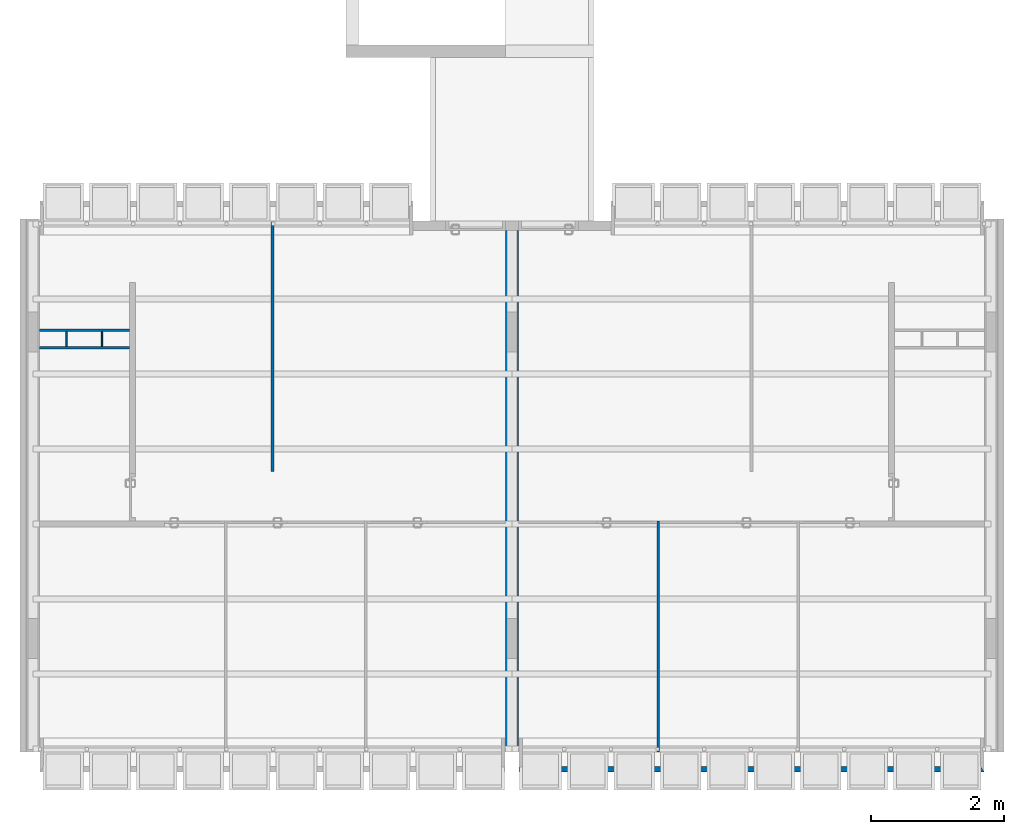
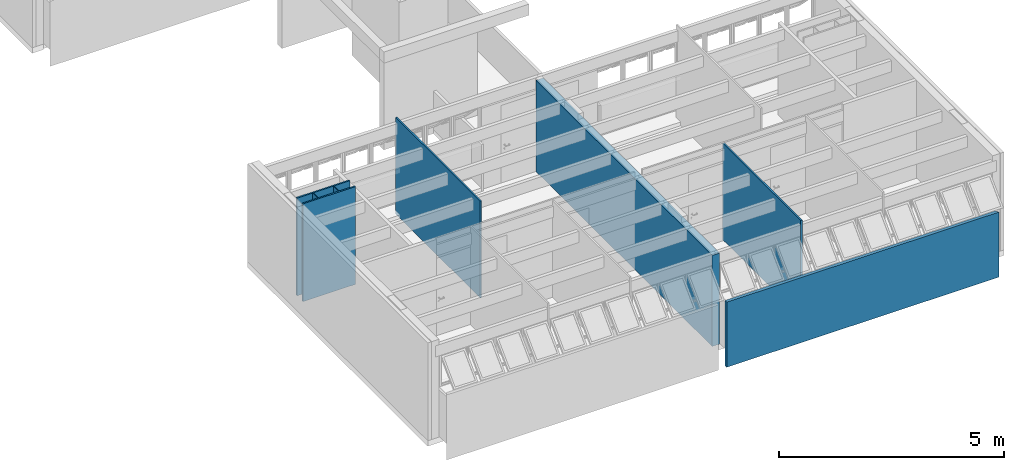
# One storey, part 8 of 37: 8 walls.
"""IFC2X3 building model written with IfcOpenShell, lengths in millimetres."""

from ifc_helpers import new_model, entity, si_unit, converted_unit, derived_unit, money_unit, direction, frame, origin_with_axes, place, context, subcontext, project, spatial, polyline, outline, extrude, material, layer, layer_set, layer_usage, type_object, element, save


model = new_model("IFC2X3")

# Units and contexts
model_context = context("Model", 3, precision=0.01, world=origin_with_axes(), true_north=direction((0.0, 1.0)))
body_context = subcontext(model_context, "Body", "Model", "MODEL_VIEW")
ifc_project = project(units=[si_unit("LENGTHUNIT", "METRE", prefix="MILLI"), si_unit("AREAUNIT", "SQUARE_METRE"), si_unit("VOLUMEUNIT", "CUBIC_METRE"), converted_unit("PLANEANGLEUNIT", "DEGREE", entity("IfcPlaneAngleMeasure", 0.0174532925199), si_unit("PLANEANGLEUNIT", "RADIAN"), dimensions=[0, 0, 0, 0, 0, 0, 0]), money_unit("USD"), converted_unit("TIMEUNIT", "Year", entity("IfcTimeMeasure", 31556926.0), si_unit("TIMEUNIT", "SECOND"), dimensions=[0, 0, 1, 0, 0, 0, 0]), si_unit("MASSUNIT", "GRAM", prefix="KILO"), si_unit("THERMODYNAMICTEMPERATUREUNIT", "DEGREE_CELSIUS"), si_unit("LUMINOUSINTENSITYUNIT", "LUMEN"), si_unit("ENERGYUNIT", "JOULE", prefix="MEGA"), derived_unit("THERMALCONDUCTANCEUNIT", [(si_unit("POWERUNIT", "WATT"), 1), (si_unit("LENGTHUNIT", "METRE"), -1), (si_unit("THERMODYNAMICTEMPERATUREUNIT", "KELVIN"), -1)]), derived_unit("SPECIFICHEATCAPACITYUNIT", [(si_unit("ENERGYUNIT", "JOULE"), 1), (si_unit("MASSUNIT", "GRAM", prefix="KILO"), -1), (si_unit("THERMODYNAMICTEMPERATUREUNIT", "KELVIN"), -1)]), derived_unit("MASSDENSITYUNIT", [(si_unit("MASSUNIT", "GRAM", prefix="KILO"), 1), (si_unit("VOLUMEUNIT", "CUBIC_METRE"), -1)])], contexts=[model_context])

# Site, building, storey
site_placement = place(None, origin_with_axes())
site = spatial("IfcSite", under=ifc_project, at=site_placement, Name="Local", CompositionType="ELEMENT")
building_placement = place(site_placement, origin_with_axes())
building = spatial("IfcBuilding", under=site, at=building_placement, Name="Construção", CompositionType="ELEMENT")
storey_placement = place(building_placement, frame((0.0, 0.0, 5300.0), z_axis=(0.0, 0.0, 1.0), x_axis=(1.0, 0.0, 0.0)))
storey = spatial("IfcBuildingStorey", under=building, at=storey_placement, Name="Terceiro Pavimento", CompositionType="ELEMENT", Elevation=5300.0)

# Walls
ifc_material_1 = material(Name="GENÉRICO - VEDAÇÃO EXTERNA")
ifc_layer_1 = layer(ifc_material_1, 190.0, ventilated="UNKNOWN")
ifc_layer_set_1 = layer_set([ifc_layer_1], Name="GENÉRICO - VEDAÇÃO EXTERNA 190")
ifc_layer_usage_1 = layer_usage(ifc_layer_set_1, "AXIS2", "NEGATIVE", 0.0)
wall_type_1 = type_object("IfcWallType", Name="GENÉRICO - VEDAÇÃO EXTERNA 190", PredefinedType="NOTDEFINED")
wall_1_placement = place(storey_placement, frame((7480.0, 8125.0, 0.0), z_axis=(0.0, 0.0, 1.0), x_axis=(0.0, -1.0, 0.0)))
element("IfcWallStandardCase", 1, at=wall_1_placement, inside=storey, type_object=wall_type_1, material=ifc_layer_usage_1, Name="CIRC3-PAREDE-026", context=body_context, shape_type="SweptSolid", body=[
    extrude(outline(polyline([(0.0, -190.0), (7825.0, -190.0), (7825.0, 0.0), (0.0, 0.0), (0.0, -190.0)])), origin_with_axes(), (0.0, 0.0, 1.0), 2470.0),
])
ifc_layer_2 = layer(ifc_material_1, 40.0, ventilated="UNKNOWN")
ifc_layer_set_2 = layer_set([ifc_layer_2], Name="GENÉRICO - VEDAÇÃO EXTERNA 40")
ifc_layer_usage_2 = layer_usage(ifc_layer_set_2, "AXIS2", "NEGATIVE", 40.0)
wall_type_2 = type_object("IfcWallType", Name="GENÉRICO - VEDAÇÃO EXTERNA 40", PredefinedType="NOTDEFINED")
wall_2_placement = place(storey_placement, frame((3810.0, 4505.0, 0.0), z_axis=(0.0, 0.0, 1.0), x_axis=(0.0, 1.0, 0.0)))
element("IfcWallStandardCase", 2, at=wall_2_placement, inside=storey, type_object=wall_type_2, material=ifc_layer_usage_2, Name="APTO9-PAREDE-003", context=body_context, shape_type="SweptSolid", body=[
    extrude(outline(polyline([(0.0, 0.0), (3750.0, 0.0), (3750.0, 40.0), (0.0, 40.0), (0.0, 0.0)])), origin_with_axes(), (0.0, 0.0, 1.0), 2620.0),
])
ifc_layer_usage_3 = layer_usage(ifc_layer_set_2, "AXIS2", "NEGATIVE", 40.0)
wall_3_placement = place(storey_placement, frame((290.0, 6345.0, 0.0), z_axis=(0.0, 0.0, 1.0), x_axis=(1.0, 0.0, 0.0)))
element("IfcWallStandardCase", 3, at=wall_3_placement, inside=storey, type_object=wall_type_2, material=ifc_layer_usage_3, Name="APTO9-PAREDE-011", context=body_context, shape_type="SweptSolid", body=[
    extrude(outline(polyline([(0.0, 0.0), (1350.0, 0.0), (1350.0, 40.0), (0.0, 40.0), (0.0, 0.0)])), origin_with_axes(), (0.0, 0.0, 1.0), 2650.0),
])
ifc_layer_usage_4 = layer_usage(ifc_layer_set_2, "AXIS2", "NEGATIVE", 40.0)
wall_4_placement = place(storey_placement, frame((1730.0, 6645.0, 0.0), z_axis=(0.0, 0.0, 1.0), x_axis=(-1.0, 0.0, 0.0)))
element("IfcWallStandardCase", 4, at=wall_4_placement, inside=storey, type_object=wall_type_2, material=ifc_layer_usage_4, Name="APTO9-PAREDE-010", context=body_context, shape_type="SweptSolid", body=[
    extrude(outline(polyline([(90.0, 0.0), (1440.0, 0.0), (1440.0, 40.0), (90.0, 40.0), (90.0, 0.0)])), origin_with_axes(), (0.0, 0.0, 1.0), 2650.0),
])
ifc_layer_usage_5 = layer_usage(ifc_layer_set_2, "AXIS2", "POSITIVE", 0.0)
wall_5_placement = place(storey_placement, frame((9560.0, 3765.0, 0.0), z_axis=(0.0, 0.0, 1.0), x_axis=(0.0, -1.0, 0.0)))
element("IfcWallStandardCase", 5, at=wall_5_placement, inside=storey, type_object=wall_type_2, material=ifc_layer_usage_5, Name="APTO10-PAREDE-005", context=body_context, shape_type="SweptSolid", body=[
    extrude(outline(polyline([(0.0, 0.0), (3465.0, 0.0), (3465.0, 40.0), (0.0, 40.0), (0.0, 0.0)])), origin_with_axes(), (0.0, 0.0, 1.0), 2620.0),
])
ifc_layer_3 = layer(ifc_material_1, 20.0, ventilated="UNKNOWN")
ifc_layer_set_3 = layer_set([ifc_layer_3], Name="GENÉRICO - VEDAÇÃO EXTERNA 20")
ifc_layer_usage_6 = layer_usage(ifc_layer_set_3, "AXIS2", "NEGATIVE", 20.0)
wall_type_3 = type_object("IfcWallType", Name="GENÉRICO - VEDAÇÃO EXTERNA 20", PredefinedType="NOTDEFINED")
wall_6_placement = place(storey_placement, frame((710.0, 6345.0, 0.0), z_axis=(0.0, 0.0, 1.0), x_axis=(0.0, 1.0, 0.0)))
element("IfcWallStandardCase", 6, at=wall_6_placement, inside=storey, type_object=wall_type_3, material=ifc_layer_usage_6, Name="APTO9-PAREDE-009", context=body_context, shape_type="SweptSolid", body=[
    extrude(outline(polyline([(40.0, 0.0), (260.0, 0.0), (260.0, 20.0), (40.0, 20.0), (40.0, 0.0)])), origin_with_axes(), (0.0, 0.0, 1.0), 2650.0),
])
ifc_layer_usage_7 = layer_usage(ifc_layer_set_3, "AXIS2", "NEGATIVE", 0.0)
wall_7_placement = place(storey_placement, frame((1240.0, 6645.0, 0.0), z_axis=(0.0, 0.0, 1.0), x_axis=(0.0, -1.0, 0.0)))
element("IfcWallStandardCase", 7, at=wall_7_placement, inside=storey, type_object=wall_type_3, material=ifc_layer_usage_7, Name="APTO9-PAREDE-008", context=body_context, shape_type="SweptSolid", body=[
    extrude(outline(polyline([(40.0, -20.0), (260.0, -20.0), (260.0, 0.0), (40.0, 0.0), (40.0, -20.0)])), origin_with_axes(), (0.0, 0.0, 1.0), 2650.0),
])
ifc_material_2 = material(Name="Concreto Armado Moldado in Loco - Estrutural")
ifc_layer_4 = layer(ifc_material_2, 80.0, ventilated="UNKNOWN")
ifc_layer_set_4 = layer_set([ifc_layer_4], Name="Concreto Armado Moldado in Loco - Estrutural 80")
ifc_layer_usage_8 = layer_usage(ifc_layer_set_4, "AXIS2", "NEGATIVE", 80.0)
wall_type_4 = type_object("IfcWallType", Name="Concreto Armado Moldado in Loco - Estrutural 80", PredefinedType="NOTDEFINED")
wall_8_placement = place(storey_placement, frame((14470.0, 80.0, -450.0), z_axis=(0.0, 0.0, 1.0), x_axis=(-1.0, 0.0, 0.0)))
element("IfcWallStandardCase", 8, at=wall_8_placement, inside=storey, type_object=wall_type_4, material=ifc_layer_usage_8, Name="APTO10-PAREDE-015", context=body_context, shape_type="SweptSolid", body=[
    extrude(outline(polyline([(50.0, 0.0), (6980.0, 0.0), (6980.0, 80.0), (0.0, 80.0), (50.0, 0.0)])), origin_with_axes(), (0.0, 0.0, 1.0), 1765.0),
])

save(model, "model.ifc")
